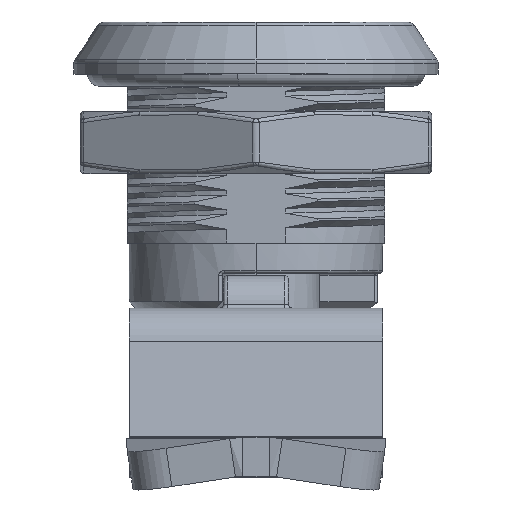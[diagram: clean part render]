
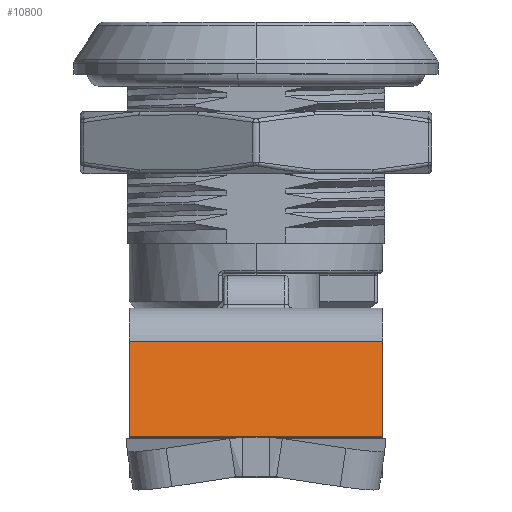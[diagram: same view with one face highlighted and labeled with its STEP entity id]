
A CAD part, top view. The second image highlights one B-rep face of the part: STEP entity #10800.
In plain terms, the highlighted planar face has unit normal (0, 0.174, 0.985) as drawn and (-0.985, 0.174, 0) by its records, which use the part's own axes.
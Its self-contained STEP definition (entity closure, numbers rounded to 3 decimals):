
#87 = DIRECTION ( 'NONE',  ( 0.174, 0.985, 0. ) ) ;
#1154 = VECTOR ( 'NONE', #19987, 1000. ) ;
#2320 = ORIENTED_EDGE ( 'NONE', *, *, #25701, .F. ) ;
#5173 = DIRECTION ( 'NONE',  ( 0.174, 0.985, 0. ) ) ;
#5495 = ORIENTED_EDGE ( 'NONE', *, *, #33350, .F. ) ;
#8095 = CARTESIAN_POINT ( 'NONE',  ( -28.316, -9.917, 6.75 ) ) ;
#9322 = LINE ( 'NONE', #34757, #40012 ) ;
#9326 = DIRECTION ( 'NONE',  ( 0., 0., 1. ) ) ;
#10029 = ORIENTED_EDGE ( 'NONE', *, *, #36385, .T. ) ;
#10800 = ADVANCED_FACE ( 'NONE', ( #31238 ), #30958, .F. ) ;
#14933 = VERTEX_POINT ( 'NONE', #46960 ) ;
#16202 = VECTOR ( 'NONE', #9326, 1000. ) ;
#19923 = ORIENTED_EDGE ( 'NONE', *, *, #30763, .T. ) ;
#19987 = DIRECTION ( 'NONE',  ( 0., 0., 1. ) ) ;
#25701 = EDGE_CURVE ( 'NONE', #14933, #27296, #46282, .T. ) ;
#27296 = VERTEX_POINT ( 'NONE', #48007 ) ;
#29884 = CARTESIAN_POINT ( 'NONE',  ( -28.316, -9.917, 9.75 ) ) ;
#30689 = DIRECTION ( 'NONE',  ( 0.985, -0.174, 0. ) ) ;
#30763 = EDGE_CURVE ( 'NONE', #51101, #50692, #9322, .T. ) ;
#30958 = PLANE ( 'NONE',  #45935 ) ;
#31238 = FACE_OUTER_BOUND ( 'NONE', #33925, .T. ) ;
#33350 = EDGE_CURVE ( 'NONE', #27296, #50692, #47230, .T. ) ;
#33925 = EDGE_LOOP ( 'NONE', ( #2320, #10029, #19923, #5495 ) ) ;
#34757 = CARTESIAN_POINT ( 'NONE',  ( -27.946, -7.819, 9.75 ) ) ;
#36385 = EDGE_CURVE ( 'NONE', #14933, #51101, #41859, .T. ) ;
#37972 = CARTESIAN_POINT ( 'NONE',  ( -27.946, -7.819, -9.75 ) ) ;
#40012 = VECTOR ( 'NONE', #5173, 1000. ) ;
#40853 = VECTOR ( 'NONE', #87, 1000. ) ;
#41859 = LINE ( 'NONE', #8095, #1154 ) ;
#42820 = CARTESIAN_POINT ( 'NONE',  ( -27.019, -2.562, 6.75 ) ) ;
#45935 = AXIS2_PLACEMENT_3D ( 'NONE', #47866, #30689, #48137 ) ;
#46282 = LINE ( 'NONE', #37972, #40853 ) ;
#46960 = CARTESIAN_POINT ( 'NONE',  ( -28.316, -9.917, -9.75 ) ) ;
#47230 = LINE ( 'NONE', #42820, #16202 ) ;
#47866 = CARTESIAN_POINT ( 'NONE',  ( -31.239, -26.492, 6.75 ) ) ;
#48007 = CARTESIAN_POINT ( 'NONE',  ( -27.019, -2.562, -9.75 ) ) ;
#48137 = DIRECTION ( 'NONE',  ( 0., 0., -1. ) ) ;
#50692 = VERTEX_POINT ( 'NONE', #54567 ) ;
#51101 = VERTEX_POINT ( 'NONE', #29884 ) ;
#54567 = CARTESIAN_POINT ( 'NONE',  ( -27.019, -2.562, 9.75 ) ) ;
